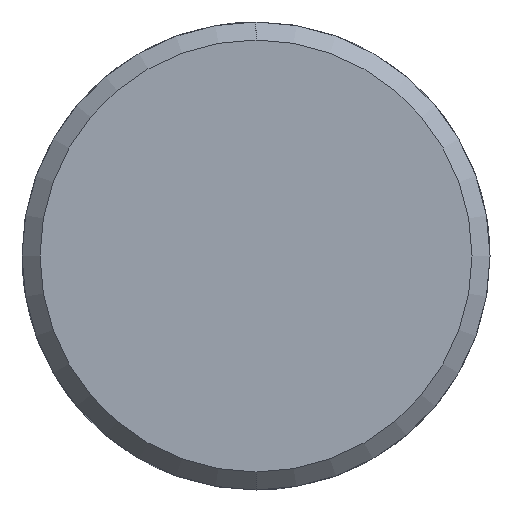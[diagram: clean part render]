
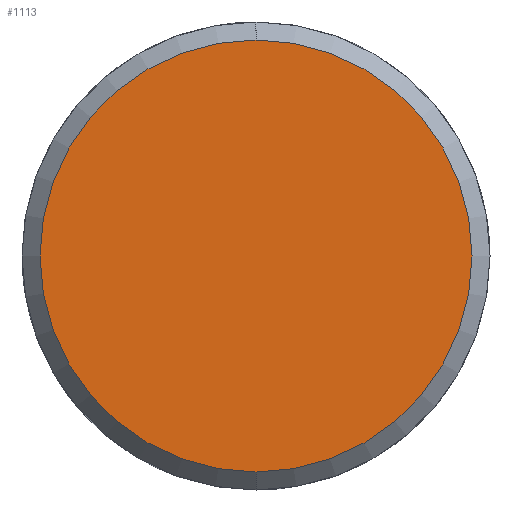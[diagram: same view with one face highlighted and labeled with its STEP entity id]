
A CAD part, left-side view. The second image highlights one B-rep face of the part: STEP entity #1113.
In plain terms, the highlighted planar face has unit normal (-1, 0, 0).
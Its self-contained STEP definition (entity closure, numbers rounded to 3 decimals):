
#1045=CARTESIAN_POINT('Vertex',(-5.,0.,-12.)) ;
#1048=CARTESIAN_POINT('Axis2P3D Location',(-5.,0.,0.)) ;
#1052=CARTESIAN_POINT('Vertex',(-5.,12.,0.)) ;
#1055=CARTESIAN_POINT('Axis2P3D Location',(-5.,0.,0.)) ;
#1059=CARTESIAN_POINT('Vertex',(-5.,0.,12.)) ;
#1081=CARTESIAN_POINT('Axis2P3D Location',(-5.,0.,0.)) ;
#1085=CARTESIAN_POINT('Vertex',(-5.,-12.,0.)) ;
#1088=CARTESIAN_POINT('Axis2P3D Location',(-5.,0.,0.)) ;
#1102=CARTESIAN_POINT('Axis2P3D Location',(-5.,0.,0.)) ;
#1049=DIRECTION('Axis2P3D Direction',(1.,0.,-0.)) ;
#1056=DIRECTION('Axis2P3D Direction',(1.,0.,-0.)) ;
#1082=DIRECTION('Axis2P3D Direction',(1.,0.,-0.)) ;
#1089=DIRECTION('Axis2P3D Direction',(1.,0.,-0.)) ;
#1103=DIRECTION('Axis2P3D Direction',(1.,0.,-0.)) ;
#1104=DIRECTION('Axis2P3D XDirection',(-0.,0.,-1.)) ;
#1050=AXIS2_PLACEMENT_3D('Circle Axis2P3D',#1048,#1049,$) ;
#1057=AXIS2_PLACEMENT_3D('Circle Axis2P3D',#1055,#1056,$) ;
#1083=AXIS2_PLACEMENT_3D('Circle Axis2P3D',#1081,#1082,$) ;
#1090=AXIS2_PLACEMENT_3D('Circle Axis2P3D',#1088,#1089,$) ;
#1105=AXIS2_PLACEMENT_3D('Plane Axis2P3D',#1102,#1103,#1104) ;
#1108=ORIENTED_EDGE('',*,*,#1054,.F.) ;
#1109=ORIENTED_EDGE('',*,*,#1092,.F.) ;
#1110=ORIENTED_EDGE('',*,*,#1087,.F.) ;
#1111=ORIENTED_EDGE('',*,*,#1061,.F.) ;
#1113=ADVANCED_FACE('351-16X22X80',(#1112),#1106,.F.) ;
#1051=CIRCLE('generated circle',#1050,12.) ;
#1058=CIRCLE('generated circle',#1057,12.) ;
#1084=CIRCLE('generated circle',#1083,12.) ;
#1091=CIRCLE('generated circle',#1090,12.) ;
#1054=EDGE_CURVE('',#1046,#1053,#1051,.T.) ;
#1061=EDGE_CURVE('',#1053,#1060,#1058,.T.) ;
#1087=EDGE_CURVE('',#1060,#1086,#1084,.T.) ;
#1092=EDGE_CURVE('',#1086,#1046,#1091,.T.) ;
#1107=EDGE_LOOP('',(#1108,#1109,#1110,#1111)) ;
#1112=FACE_OUTER_BOUND('',#1107,.T.) ;
#1106=PLANE('Plane',#1105) ;
#1046=VERTEX_POINT('',#1045) ;
#1053=VERTEX_POINT('',#1052) ;
#1060=VERTEX_POINT('',#1059) ;
#1086=VERTEX_POINT('',#1085) ;
